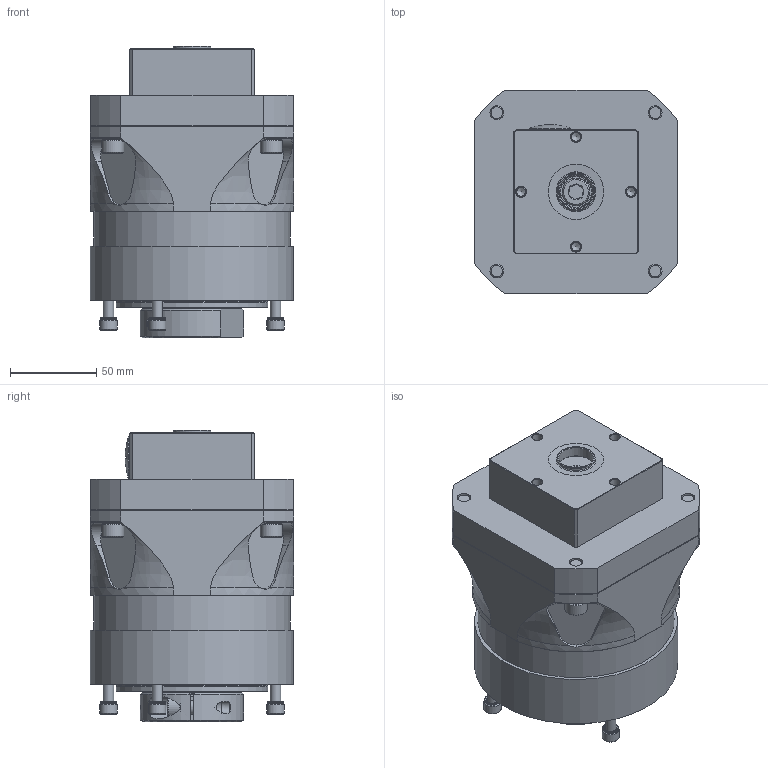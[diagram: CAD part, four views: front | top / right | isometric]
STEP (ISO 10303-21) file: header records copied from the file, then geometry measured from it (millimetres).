
FILE_DESCRIPTION (( 'STEP AP214' ), '1' );
FILE_NAME ('EPL-U-118-M2266-H1298 (24mm).STEP', '2024-10-25T16:32:21', ( '' ), ( '' ), 'SwSTEP 2.0', 'SolidWorks 2020', '' );
FILE_SCHEMA (( 'AUTOMOTIVE_DESIGN' ));
Length unit declared in the file: millimetre
Products named in the file (12): 47050004 BVL M10 10x16x1.00mm ST; 47050011 BVL M6 6x10x0.70mm ST; 51020004 M20 Threaded Plug; EPL-U-118-M2266-H1298 (24mm); 47050012 BVL M8 8x13x0.80mm ST; H1298_EPL-U-118; 4508XXXX M8 SHCS_M8 X 25; EPL-U-118_EPL-U-118-I 24mm; 4510XXXX M10 SHCS_M10 X 30; 55012116 EPL-U-118 to Macron 40-25 Adapter; 4506XXXX M6 SHCS_M6 X 75                                            ; 23050074 EPL-U-118 to Macron 40-25 0.7500in Shaft
Assembly tree (23 placements, depth 3):
  EPL-U-118-M2266-H1298 (24mm)
    H1298_EPL-U-118
      51020004 M20 Threaded Plug
      4510XXXX M10 SHCS_M10 X 30
      47050004 BVL M10 10x16x1.00mm ST
      47050012 BVL M8 8x13x0.80mm ST  x4
      4508XXXX M8 SHCS_M8 X 25  x4
      23050074 EPL-U-118 to Macron 40-25 0.7500in Shaft
      55012116 EPL-U-118 to Macron 40-25 Adapter
    EPL-U-118_EPL-U-118-I 24mm
    4506XXXX M6 SHCS_M6 X 75                                              x4
    47050011 BVL M6 6x10x0.70mm ST  x4
Bounding box: 118 x 118 x 169.43 mm (x, y, z)
Volume: 877757.3 mm3; surface area: 306108.6 mm2
Topology: 45 solids, 57 shells, 3300 faces, 9067 edges, 5921 vertices
Faces by surface type: cone 1342, bspline 1063, plane 635, cylinder 216, torus 33, sphere 11
Full cylindrical faces by diameter (mm): 2.5 x4, 2.8 x1, 4 x1, 4.5 x1, 5 x4, 5.2 x8, 6 x26, 6.5 x8, 6.65 x6, 7 x1, 8 x12, 9 x6, 10 x8, 11 x2, 12 x1, 13 x6, 13.5 x1, 16 x1, 16.5 x1, 18 x2, 18.5 x1, 19.05 x1, 19.3 x1, 20 x5, 22 x1, 24 x2, 24.5 x1, 25.05 x1, 35 x1, 35.922 x1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
Entity records: 59533 total; most frequent: CARTESIAN_POINT 24839, ORIENTED_EDGE 7632, DIRECTION 5631, EDGE_CURVE 3818, VERTEX_POINT 2604, AXIS2_PLACEMENT_3D 2554, EDGE_LOOP 2022, B_SPLINE_CURVE_WITH_KNOTS 1976
